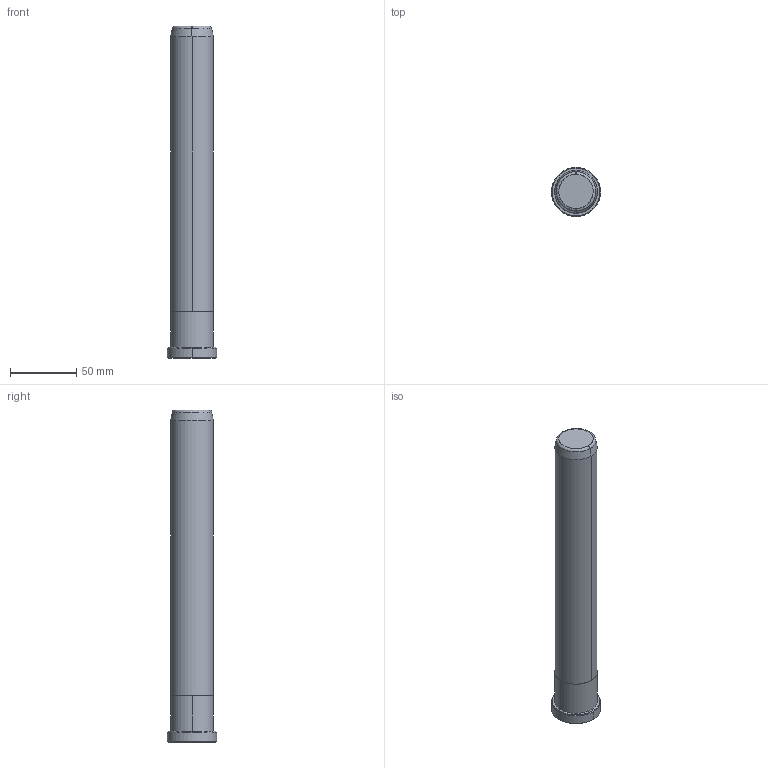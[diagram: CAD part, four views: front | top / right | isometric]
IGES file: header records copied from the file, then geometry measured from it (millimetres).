
Start section: START RECORD GO HERE.
Global section: file name: B80832250.igs; native system: DASSAULT SYSTEMES CATIA V5 R20 - www.3ds.com; preprocessor: CATIA Version 5 Release 20 ; author: Utente; organization: NB04-ASUS; date: 20200419.164705; units: millimetre
Bounding box: 37 x 37 x 250 mm (x, y, z)
Surface area: 27129.6 mm2 (no closed solid volume)
Topology: 0 solids, 0 shells, 20 faces, 80 edges, 80 vertices
Faces by surface type: revolution 16, plane 4
